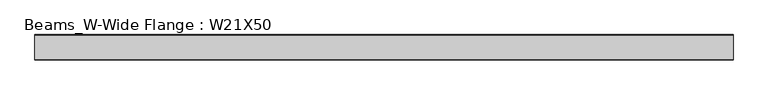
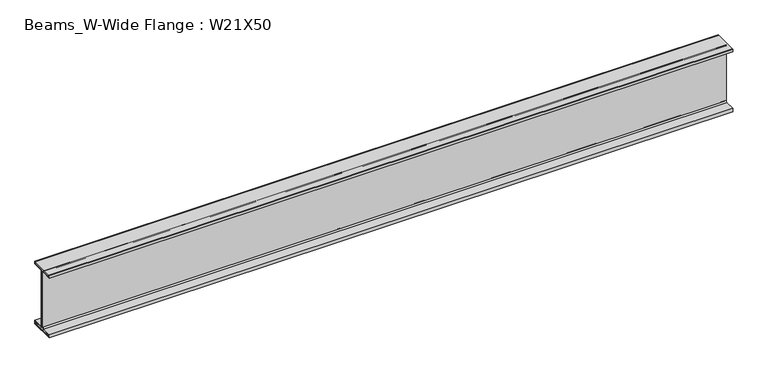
"""IFC4 building model written with IfcOpenShell, lengths in millimetres: beam geometry, Beams_W-Wide Flange : W21X50."""

import ifcopenshell
import ifcopenshell.guid

model = None  # the IFC model being written
_history = None  # IfcOwnerHistory: only IFC2X3 demands one
_inside = {}  # id of a spatial element -> (the spatial element, [elements in it])
_under = {}  # id of a project, library or spatial element -> (it, [spatial elements below it])
_declared = {}  # id of a project -> (the project, [libraries it declares])
_typed = {}  # id of a type object -> (the type object, [elements of that type])
_made_of = {}  # id of a material, layer set ... -> (it, [elements and type objects made of it])


def new_model(schema):
    """Start an empty IFC model of exactly this schema.

    Asked for "IFC4X3", IfcOpenShell would pick the latest addendum, in which some entities
    have other attributes; the version numbers below select the first issue.
    IFC2X3 requires an IfcOwnerHistory on every rooted entity: one is made here for all.
    """
    global model, _history
    if schema == "IFC4X3":
        model = ifcopenshell.file(schema_version=(4, 3, 0, 0))
    else:
        model = ifcopenshell.file(schema=schema)
    _inside.clear()
    _under.clear()
    _declared.clear()
    _typed.clear()
    _made_of.clear()
    _history = None
    if model.schema == "IFC2X3":
        org = make("IfcOrganization", Name="unknown")
        user = make(
            "IfcPersonAndOrganization",
            ThePerson=make("IfcPerson", FamilyName="unknown"),
            TheOrganization=org,
        )
        app = make(
            "IfcApplication",
            ApplicationDeveloper=org,
            Version="unknown",
            ApplicationFullName="unknown",
            ApplicationIdentifier="unknown",
        )
        _history = make(
            "IfcOwnerHistory",
            OwningUser=user,
            OwningApplication=app,
            ChangeAction="ADDED",
            CreationDate=0,
        )
    return model


def make(cls, **values):
    """One entity of the class cls with the attributes given. An attribute that is None is left unset."""
    return model.create_entity(
        cls, **{name: value for name, value in values.items() if value is not None}
    )


def rooted(cls, **values):
    """An entity with a GlobalId (a new one), such as an element, a storey or a relation."""
    return make(cls, GlobalId=ifcopenshell.guid.new(), OwnerHistory=_history, **values)


def si_unit(unit_type, name, prefix=None):
    """IfcSIUnit, for example si_unit("LENGTHUNIT", "METRE", prefix="MILLI")."""
    return make("IfcSIUnit", UnitType=unit_type, Prefix=prefix, Name=name)


def assignment(units):
    """IfcUnitAssignment: the units of a project."""
    return None if units is None else make("IfcUnitAssignment", Units=units)


def point(xyz):
    """IfcCartesianPoint."""
    return None if xyz is None else make("IfcCartesianPoint", Coordinates=xyz)


def direction(xyz):
    """IfcDirection."""
    return None if xyz is None else make("IfcDirection", DirectionRatios=xyz)


def frame(location, z_axis=None, x_axis=None):
    """IfcAxis2Placement3D, a coordinate frame: its origin and axes. An axis left out is left unset."""
    return make(
        "IfcAxis2Placement3D",
        Location=point(location),
        Axis=direction(z_axis),
        RefDirection=direction(x_axis),
    )


def frame_2d(location, x_axis=None):
    """IfcAxis2Placement2D, a coordinate frame in the plane: its origin and x axis."""
    return make(
        "IfcAxis2Placement2D", Location=point(location), RefDirection=direction(x_axis)
    )


def origin():
    """The frame at (0, 0, 0) with its axes left unset."""
    return frame((0.0, 0.0, 0.0))


def place(relative_to, where):
    """IfcLocalPlacement: puts the frame where relative to a parent placement (None: the world)."""
    return make(
        "IfcLocalPlacement", PlacementRelTo=relative_to, RelativePlacement=where
    )


def context(
    kind, dimensions, precision=None, world=None, true_north=None, identifier=None
):
    """IfcGeometricRepresentationContext, for example the 3D "Model" context."""
    return make(
        "IfcGeometricRepresentationContext",
        ContextIdentifier=identifier,
        ContextType=kind,
        CoordinateSpaceDimension=dimensions,
        Precision=precision,
        WorldCoordinateSystem=world,
        TrueNorth=true_north,
    )


def project(units=None, contexts=None):
    """IfcProject with its units and contexts."""
    return rooted(
        "IfcProject",
        Name="project",
        RepresentationContexts=contexts,
        UnitsInContext=assignment(units),
    )


def spatial(cls, under=None, at=None, **own):
    """A site, building, storey or space (cls), placed at a placement, below another one or the project."""
    s = rooted(cls, ObjectPlacement=at, **own)
    if under is not None:
        _under.setdefault(under.id(), (under, []))[1].append(s)
    return s


def polyline(points):
    """IfcPolyline through the points."""
    return make("IfcPolyline", Points=[point(p) for p in points])


def circle_curve(where, radius):
    """IfcCircle in the frame where."""
    return make("IfcCircle", Position=where, Radius=radius)


def trimmed(basis, trim1, trim2, sense, master):
    """IfcTrimmedCurve: the piece of a basis curve between two trims."""
    return make(
        "IfcTrimmedCurve",
        BasisCurve=basis,
        Trim1=trim1,
        Trim2=trim2,
        SenseAgreement=sense,
        MasterRepresentation=master,
    )


def segment(curve, same_sense, transition):
    """IfcCompositeCurveSegment."""
    return make(
        "IfcCompositeCurveSegment",
        Transition=transition,
        SameSense=same_sense,
        ParentCurve=curve,
    )


def composite_curve(segments, self_intersect=None):
    """IfcCompositeCurve: segments joined end to end."""
    return make("IfcCompositeCurve", Segments=segments, SelfIntersect=self_intersect)


def outline(outer, holes=None, kind="AREA"):
    """IfcArbitraryClosedProfileDef: a profile drawn as a closed curve; with holes, ...WithVoids."""
    if holes is None:
        return make("IfcArbitraryClosedProfileDef", ProfileType=kind, OuterCurve=outer)
    return make(
        "IfcArbitraryProfileDefWithVoids",
        ProfileType=kind,
        OuterCurve=outer,
        InnerCurves=holes,
    )


def extrude(swept, where, along, depth):
    """IfcExtrudedAreaSolid: the profile swept, set in the frame where, extruded along a direction by depth."""
    return make(
        "IfcExtrudedAreaSolid",
        SweptArea=swept,
        Position=where,
        ExtrudedDirection=direction(along),
        Depth=depth,
    )


def shape(context_of_items, identifier, shape_type, items):
    """IfcShapeRepresentation: the items that make up one representation, for example the "Body"."""
    return make(
        "IfcShapeRepresentation",
        ContextOfItems=context_of_items,
        RepresentationIdentifier=identifier,
        RepresentationType=shape_type,
        Items=items,
    )


def source(mapping_origin, context_of_items, identifier, shape_type, items):
    """IfcRepresentationMap: a shape defined once, which mapped items show again and again."""
    return make(
        "IfcRepresentationMap",
        MappingOrigin=mapping_origin,
        MappedRepresentation=shape(context_of_items, identifier, shape_type, items),
    )


def transform(
    local_origin,
    x_axis=None,
    y_axis=None,
    z_axis=None,
    scale=None,
    scale2=None,
    scale3=None,
    uniform=True,
):
    """IfcCartesianTransformationOperator3D, or its non-uniform kind. x_axis, y_axis, z_axis: its Axis1, 2, 3."""
    if uniform:
        return make(
            "IfcCartesianTransformationOperator3D",
            Axis1=direction(x_axis),
            Axis2=direction(y_axis),
            LocalOrigin=point(local_origin),
            Scale=scale,
            Axis3=direction(z_axis),
        )
    return make(
        "IfcCartesianTransformationOperator3DnonUniform",
        Axis1=direction(x_axis),
        Axis2=direction(y_axis),
        LocalOrigin=point(local_origin),
        Scale=scale,
        Axis3=direction(z_axis),
        Scale2=scale2,
        Scale3=scale3,
    )


def mapped(mapping_source, mapping_target):
    """IfcMappedItem: shows the shape of a source again, moved by a transform."""
    return make(
        "IfcMappedItem", MappingSource=mapping_source, MappingTarget=mapping_target
    )


def made_of(thing, what):
    """Note that an element or type object is made of a material, layer set ...; save() writes the relation."""
    if what is not None:
        _made_of.setdefault(what.id(), (what, []))[1].append(thing)
    return thing


def element(
    cls,
    number,
    at=None,
    inside=None,
    cuts=None,
    type_object=None,
    material=None,
    context=None,
    identifier="Body",
    shape_type=None,
    held_by="IfcProductDefinitionShape",
    body=None,
    shapes=None,
    **own,
):
    """One element of the class cls, such as IfcWall. Its Tag is "e" and its number.

    at: its placement. inside: the storey or other place that contains it. cuts: it is an
    opening in that element (IfcRelVoidsElement). A single representation is given by context,
    identifier, shape_type and body (its items); several are given by shapes. held_by: the class
    of the entity that holds the representations. save() writes the other relations.
    """
    e = rooted(cls, Tag="e%d" % number, ObjectPlacement=at, **own)
    if body is not None:
        shapes = [shape(context, identifier, shape_type, body)]
    if shapes is not None:
        e.Representation = make(held_by, Representations=shapes)
    if inside is not None:
        _inside.setdefault(inside.id(), (inside, []))[1].append(e)
    if cuts is not None:
        rooted(
            "IfcRelVoidsElement", RelatingBuildingElement=cuts, RelatedOpeningElement=e
        )
    if type_object is not None:
        _typed.setdefault(type_object.id(), (type_object, []))[1].append(e)
    return made_of(e, material)


def aggregate(whole, parts):
    """IfcRelAggregates: a whole, such as a stair, and the parts it consists of."""
    return rooted("IfcRelAggregates", RelatingObject=whole, RelatedObjects=parts)


def save(model, path):
    """Write the relations noted so far, then the file.

    IfcRelAggregates (storeys below a building ...), IfcRelContainedInSpatialStructure (elements
    in a storey), IfcRelDefinesByType, IfcRelAssociatesMaterial and IfcRelDeclares: one each for
    every whole, place, type object, material and project.
    """
    for whole, parts in _under.values():
        aggregate(whole, parts)
    for where, things in _inside.values():
        rooted(
            "IfcRelContainedInSpatialStructure",
            RelatedElements=things,
            RelatingStructure=where,
        )
    for kind, things in _typed.values():
        rooted("IfcRelDefinesByType", RelatedObjects=things, RelatingType=kind)
    for what, things in _made_of.values():
        rooted("IfcRelAssociatesMaterial", RelatedObjects=things, RelatingMaterial=what)
    for by, libraries in _declared.values():
        rooted("IfcRelDeclares", RelatingContext=by, RelatedDefinitions=libraries)
    model.write(path)


def beams_w_wide_flange_w21x50_24f05fb9(model_context):
    return source(origin(), model_context, "Body", "SweptSolid", [
        extrude(outline(composite_curve([segment(polyline([(95.25, -249.443875), (95.25, -263.921875), (-95.25, -263.921875), (-95.25, -249.443875), (-21.7805, -249.443875)]), True, "CONTINUOUS"), segment(trimmed(circle_curve(frame_2d((-21.7805, -232.171875)), 17.272), [point((-21.7805, -249.443875))], [point((-4.5085, -232.171875))], True, "CARTESIAN"), True, "CONTINUOUS"), segment(polyline([(-4.5085, -232.171875), (-4.5085, 232.171875)]), True, "CONTINUOUS"), segment(trimmed(circle_curve(frame_2d((-21.7805, 232.171875)), 17.272), [point((-4.5085, 232.171875))], [point((-21.7805, 249.443875))], True, "CARTESIAN"), True, "CONTINUOUS"), segment(polyline([(-21.7805, 249.443875), (-95.25, 249.443875), (-95.25, 263.921875), (95.25, 263.921875), (95.25, 249.443875), (21.7805, 249.443875)]), True, "CONTINUOUS"), segment(trimmed(circle_curve(frame_2d((21.7805, 232.171875)), 17.272), [point((21.7805, 249.443875))], [point((4.5085, 232.171875))], True, "CARTESIAN"), True, "CONTINUOUS"), segment(polyline([(4.5085, 232.171875), (4.5085, -232.171875)]), True, "CONTINUOUS"), segment(trimmed(circle_curve(frame_2d((21.7805, -232.171875)), 17.272), [point((4.5085, -232.171875))], [point((21.7805, -249.443875))], True, "CARTESIAN"), True, "CONTINUOUS"), segment(polyline([(21.7805, -249.443875), (95.25, -249.443875)]), True, "CONTINUOUS")], self_intersect=False)), frame((-2774.95, 0.0, 0.0), z_axis=(1.0, 0.0, 0.0), x_axis=(0.0, 1.0, 0.0)), (0.0, 0.0, 1.0), 5549.9),
        extrude(outline(composite_curve([segment(polyline([(101.6, 243.093875), (20.2902344, 243.093875)]), True, "CONTINUOUS"), segment(trimmed(circle_curve(frame_2d((20.2902344, 233.6621406)), 9.4317344), [point((20.2902344, 243.093875))], [point((10.8585, 233.6621406))], True, "CARTESIAN"), True, "CONTINUOUS"), segment(polyline([(10.8585, 233.6621406), (10.8585, -232.171875)]), True, "CONTINUOUS"), segment(trimmed(circle_curve(frame_2d((21.7805, -232.171875)), 10.922), [point((10.8585, -232.171875))], [point((21.7805, -243.093875))], True, "CARTESIAN"), True, "CONTINUOUS"), segment(polyline([(21.7805, -243.093875), (101.6, -243.093875), (101.6, -270.271875), (-101.6, -270.271875), (-101.6, -243.093875), (-21.7805, -243.093875)]), True, "CONTINUOUS"), segment(trimmed(circle_curve(frame_2d((-21.7805, -232.171875)), 10.922), [point((-21.7805, -243.093875))], [point((-10.8585, -232.171875))], True, "CARTESIAN"), True, "CONTINUOUS"), segment(polyline([(-10.8585, -232.171875), (-10.8585, 232.171875)]), True, "CONTINUOUS"), segment(trimmed(circle_curve(frame_2d((-21.7805, 232.171875)), 10.922), [point((-10.8585, 232.171875))], [point((-21.7805, 243.093875))], True, "CARTESIAN"), True, "CONTINUOUS"), segment(polyline([(-21.7805, 243.093875), (-101.6, 243.093875), (-101.6, 263.921875), (-95.25, 263.921875), (-95.25, 249.443875), (-21.7805, 249.443875)]), True, "CONTINUOUS"), segment(trimmed(circle_curve(frame_2d((-21.7805, 232.171875)), 17.272), [point((-21.7805, 249.443875))], [point((-4.5085, 232.171875))], False, "CARTESIAN"), True, "CONTINUOUS"), segment(polyline([(-4.5085, 232.171875), (-4.5085, -232.171875)]), True, "CONTINUOUS"), segment(trimmed(circle_curve(frame_2d((-21.7805, -232.171875)), 17.272), [point((-4.5085, -232.171875))], [point((-21.7805, -249.443875))], False, "CARTESIAN"), True, "CONTINUOUS"), segment(polyline([(-21.7805, -249.443875), (-95.25, -249.443875), (-95.25, -263.921875), (95.25, -263.921875), (95.25, -249.443875), (21.7805, -249.443875)]), True, "CONTINUOUS"), segment(trimmed(circle_curve(frame_2d((21.7805, -232.171875)), 17.272), [point((21.7805, -249.443875))], [point((4.5085, -232.171875))], False, "CARTESIAN"), True, "CONTINUOUS"), segment(polyline([(4.5085, -232.171875), (4.5085, 232.171875)]), True, "CONTINUOUS"), segment(trimmed(circle_curve(frame_2d((21.7805, 232.171875)), 17.272), [point((4.5085, 232.171875))], [point((21.7805, 249.443875))], False, "CARTESIAN"), True, "CONTINUOUS"), segment(polyline([(21.7805, 249.443875), (95.25, 249.443875), (95.25, 263.921875), (101.6, 263.921875), (101.6, 243.093875)]), True, "CONTINUOUS")], self_intersect=False)), frame((-2774.95, 0.0, 0.0), z_axis=(1.0, 0.0, 0.0), x_axis=(0.0, 1.0, 0.0)), (0.0, 0.0, 1.0), 5549.9),
    ])


if __name__ == "__main__":
    model = new_model("IFC4")
    model_context = context("Model", 3, world=origin())
    ifc_project = project(units=[si_unit("LENGTHUNIT", "METRE", prefix="MILLI")], contexts=[model_context])
    site = spatial("IfcSite", under=ifc_project)
    building = spatial("IfcBuilding", under=site)
    placement = place(None, origin())
    beams_w_wide_flange_w21x50_shape = beams_w_wide_flange_w21x50_24f05fb9(model_context)
    element("IfcBeam", 1, ObjectType="Beams_W-Wide Flange : W21X50", at=placement, inside=building, context=model_context, shape_type="MappedRepresentation", body=[
        mapped(beams_w_wide_flange_w21x50_shape, transform((0.0, 0.0, 0.0), x_axis=(1.0, 0.0, 0.0), y_axis=(0.0, 1.0, 0.0), z_axis=(0.0, 0.0, 1.0))),
    ])
    save(model, "model.ifc")
